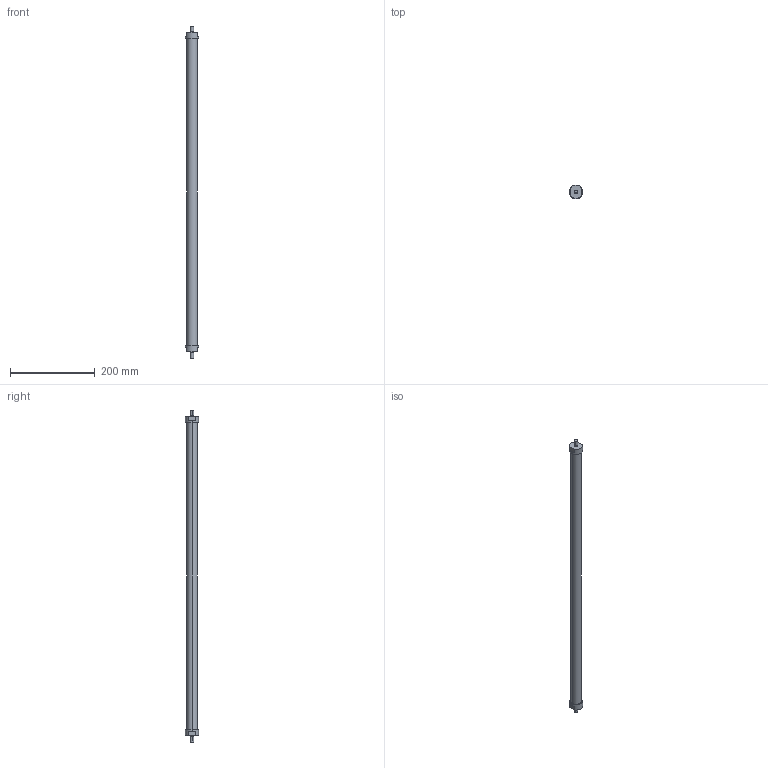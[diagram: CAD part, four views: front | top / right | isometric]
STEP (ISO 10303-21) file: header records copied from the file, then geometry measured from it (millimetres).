
FILE_DESCRIPTION(('STEP AP214'),'1');
FILE_NAME('ETT-R050N764.stp','2015-02-02T15:49:07',(' '),(' '),'Spatial InterOp 3D',' ',' ');
FILE_SCHEMA(('automotive_design'));
Length unit declared in the file: metre
Products named in the file (3): 1; 2; 3
Bounding box: 31 x 31 x 784 mm (x, y, z)
Volume: 378398.7 mm3; surface area: 63090.2 mm2
Topology: 1 solids, 7 shells, 30 faces, 81 edges, 63 vertices
Faces by surface type: plane 16, cylinder 14
Entity records: 1295 total; most frequent: DIRECTION 194, CARTESIAN_POINT 177, ORIENTED_EDGE 138, EDGE_CURVE 81, AXIS2_PLACEMENT_3D 80, VERTEX_POINT 63, CIRCLE 47, EDGE_LOOP 36
